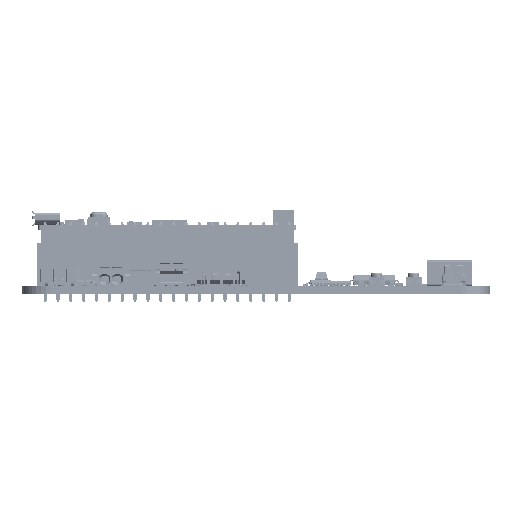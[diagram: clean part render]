
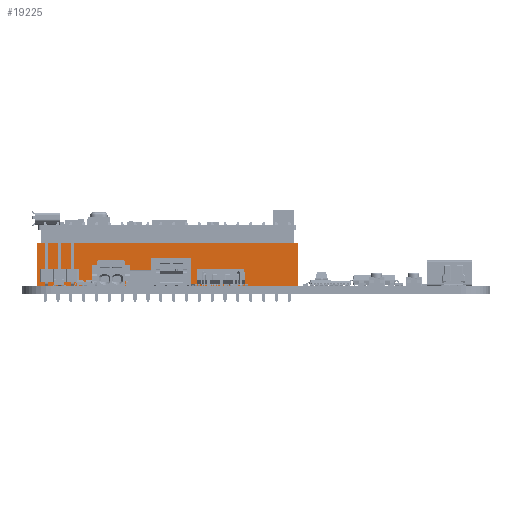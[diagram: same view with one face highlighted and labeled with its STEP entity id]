
A CAD part, left-side view. The second image highlights one B-rep face of the part: STEP entity #19225.
In plain terms, the highlighted planar face has unit normal (-1, 0, 0).
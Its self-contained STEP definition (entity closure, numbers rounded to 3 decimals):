
#19225 = ADVANCED_FACE('',(#19226),#19260,.T.);
#19226 = FACE_BOUND('',#19227,.T.);
#19227 = EDGE_LOOP('',(#19228,#19238,#19246,#19254));
#19228 = ORIENTED_EDGE('',*,*,#19229,.T.);
#19229 = EDGE_CURVE('',#19230,#19232,#19234,.T.);
#19230 = VERTEX_POINT('',#19231);
#19231 = CARTESIAN_POINT('',(-10.16,25.8,0.));
#19232 = VERTEX_POINT('',#19233);
#19233 = CARTESIAN_POINT('',(-10.16,-25.8,0.));
#19234 = LINE('',#19235,#19236);
#19235 = CARTESIAN_POINT('',(-10.16,25.8,0.));
#19236 = VECTOR('',#19237,1.);
#19237 = DIRECTION('',(0.,-1.,0.));
#19238 = ORIENTED_EDGE('',*,*,#19239,.T.);
#19239 = EDGE_CURVE('',#19232,#19240,#19242,.T.);
#19240 = VERTEX_POINT('',#19241);
#19241 = CARTESIAN_POINT('',(-10.16,-25.8,8.46));
#19242 = LINE('',#19243,#19244);
#19243 = CARTESIAN_POINT('',(-10.16,-25.8,0.));
#19244 = VECTOR('',#19245,1.);
#19245 = DIRECTION('',(0.,0.,1.));
#19246 = ORIENTED_EDGE('',*,*,#19247,.F.);
#19247 = EDGE_CURVE('',#19248,#19240,#19250,.T.);
#19248 = VERTEX_POINT('',#19249);
#19249 = CARTESIAN_POINT('',(-10.16,25.8,8.46));
#19250 = LINE('',#19251,#19252);
#19251 = CARTESIAN_POINT('',(-10.16,25.8,8.46));
#19252 = VECTOR('',#19253,1.);
#19253 = DIRECTION('',(0.,-1.,0.));
#19254 = ORIENTED_EDGE('',*,*,#19255,.F.);
#19255 = EDGE_CURVE('',#19230,#19248,#19256,.T.);
#19256 = LINE('',#19257,#19258);
#19257 = CARTESIAN_POINT('',(-10.16,25.8,0.));
#19258 = VECTOR('',#19259,1.);
#19259 = DIRECTION('',(0.,0.,1.));
#19260 = PLANE('',#19261);
#19261 = AXIS2_PLACEMENT_3D('',#19262,#19263,#19264);
#19262 = CARTESIAN_POINT('',(-10.16,25.8,0.));
#19263 = DIRECTION('',(-1.,0.,0.));
#19264 = DIRECTION('',(0.,0.,1.));
